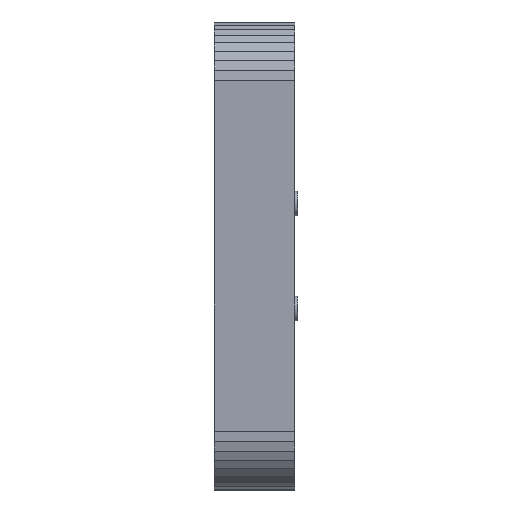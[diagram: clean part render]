
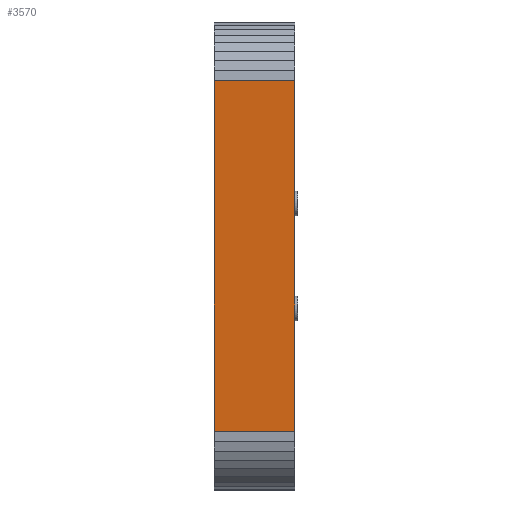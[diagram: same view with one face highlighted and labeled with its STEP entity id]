
A CAD part, top view. The second image highlights one B-rep face of the part: STEP entity #3570.
In plain terms, the highlighted planar face has unit normal (0, -0.079, 0.997).
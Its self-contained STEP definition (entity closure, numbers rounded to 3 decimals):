
#72 = PLANE('',#73);
#73 = AXIS2_PLACEMENT_3D('',#74,#75,#76);
#74 = CARTESIAN_POINT('',(-78.,158.178,-107.5));
#75 = DIRECTION('',(-1.,-0.,-0.));
#76 = DIRECTION('',(0.,0.,-1.));
#126 = PLANE('',#127);
#127 = AXIS2_PLACEMENT_3D('',#128,#129,#130);
#128 = CARTESIAN_POINT('',(-52.,158.178,-107.5));
#129 = DIRECTION('',(-1.,-0.,-0.));
#130 = DIRECTION('',(0.,0.,-1.));
#991 = VERTEX_POINT('',#992);
#992 = CARTESIAN_POINT('',(-52.,215.,-84.));
#1006 = PLANE('',#1007);
#1007 = AXIS2_PLACEMENT_3D('',#1008,#1009,#1010);
#1008 = CARTESIAN_POINT('',(-52.,218.299,-84.289));
#1009 = DIRECTION('',(-0.,-0.087,-0.996));
#1010 = DIRECTION('',(0.,0.996,-0.087));
#1018 = EDGE_CURVE('',#991,#1019,#1021,.T.);
#1019 = VERTEX_POINT('',#1020);
#1020 = CARTESIAN_POINT('',(-52.,101.356,-93.));
#1021 = SURFACE_CURVE('',#1022,(#1026,#1033),.PCURVE_S1.);
#1022 = LINE('',#1023,#1024);
#1023 = CARTESIAN_POINT('',(-52.,215.,-84.));
#1024 = VECTOR('',#1025,1.);
#1025 = DIRECTION('',(-0.,-0.997,-0.079));
#1026 = PCURVE('',#126,#1027);
#1027 = DEFINITIONAL_REPRESENTATION('',(#1028),#1032);
#1028 = LINE('',#1029,#1030);
#1029 = CARTESIAN_POINT('',(-23.5,-56.822));
#1030 = VECTOR('',#1031,1.);
#1031 = DIRECTION('',(0.079,0.997));
#1032 = ( GEOMETRIC_REPRESENTATION_CONTEXT(2) 
PARAMETRIC_REPRESENTATION_CONTEXT() REPRESENTATION_CONTEXT('2D SPACE',''
  ) );
#1033 = PCURVE('',#1034,#1039);
#1034 = PLANE('',#1035);
#1035 = AXIS2_PLACEMENT_3D('',#1036,#1037,#1038);
#1036 = CARTESIAN_POINT('',(-52.,215.,-84.));
#1037 = DIRECTION('',(-0.,0.079,-0.997));
#1038 = DIRECTION('',(0.,0.997,0.079));
#1039 = DEFINITIONAL_REPRESENTATION('',(#1040),#1044);
#1040 = LINE('',#1041,#1042);
#1041 = CARTESIAN_POINT('',(0.,-0.));
#1042 = VECTOR('',#1043,1.);
#1043 = DIRECTION('',(-1.,0.));
#1044 = ( GEOMETRIC_REPRESENTATION_CONTEXT(2) 
PARAMETRIC_REPRESENTATION_CONTEXT() REPRESENTATION_CONTEXT('2D SPACE',''
  ) );
#1062 = PLANE('',#1063);
#1063 = AXIS2_PLACEMENT_3D('',#1064,#1065,#1066);
#1064 = CARTESIAN_POINT('',(-52.,101.356,-93.));
#1065 = DIRECTION('',(-0.,0.087,-0.996));
#1066 = DIRECTION('',(0.,0.996,0.087));
#2911 = VERTEX_POINT('',#2912);
#2912 = CARTESIAN_POINT('',(-78.,215.,-84.));
#2933 = EDGE_CURVE('',#2911,#2934,#2936,.T.);
#2934 = VERTEX_POINT('',#2935);
#2935 = CARTESIAN_POINT('',(-78.,101.356,-93.));
#2936 = SURFACE_CURVE('',#2937,(#2941,#2948),.PCURVE_S1.);
#2937 = LINE('',#2938,#2939);
#2938 = CARTESIAN_POINT('',(-78.,215.,-84.));
#2939 = VECTOR('',#2940,1.);
#2940 = DIRECTION('',(-0.,-0.997,-0.079));
#2941 = PCURVE('',#72,#2942);
#2942 = DEFINITIONAL_REPRESENTATION('',(#2943),#2947);
#2943 = LINE('',#2944,#2945);
#2944 = CARTESIAN_POINT('',(-23.5,-56.822));
#2945 = VECTOR('',#2946,1.);
#2946 = DIRECTION('',(0.079,0.997));
#2947 = ( GEOMETRIC_REPRESENTATION_CONTEXT(2) 
PARAMETRIC_REPRESENTATION_CONTEXT() REPRESENTATION_CONTEXT('2D SPACE',''
  ) );
#2948 = PCURVE('',#1034,#2949);
#2949 = DEFINITIONAL_REPRESENTATION('',(#2950),#2954);
#2950 = LINE('',#2951,#2952);
#2951 = CARTESIAN_POINT('',(-0.,-26.));
#2952 = VECTOR('',#2953,1.);
#2953 = DIRECTION('',(-1.,0.));
#2954 = ( GEOMETRIC_REPRESENTATION_CONTEXT(2) 
PARAMETRIC_REPRESENTATION_CONTEXT() REPRESENTATION_CONTEXT('2D SPACE',''
  ) );
#3520 = EDGE_CURVE('',#1019,#2934,#3521,.T.);
#3521 = SURFACE_CURVE('',#3522,(#3526,#3533),.PCURVE_S1.);
#3522 = LINE('',#3523,#3524);
#3523 = CARTESIAN_POINT('',(-52.,101.356,-93.));
#3524 = VECTOR('',#3525,1.);
#3525 = DIRECTION('',(-1.,-0.,-0.));
#3526 = PCURVE('',#1062,#3527);
#3527 = DEFINITIONAL_REPRESENTATION('',(#3528),#3532);
#3528 = LINE('',#3529,#3530);
#3529 = CARTESIAN_POINT('',(0.,-0.));
#3530 = VECTOR('',#3531,1.);
#3531 = DIRECTION('',(-0.,-1.));
#3532 = ( GEOMETRIC_REPRESENTATION_CONTEXT(2) 
PARAMETRIC_REPRESENTATION_CONTEXT() REPRESENTATION_CONTEXT('2D SPACE',''
  ) );
#3533 = PCURVE('',#1034,#3534);
#3534 = DEFINITIONAL_REPRESENTATION('',(#3535),#3539);
#3535 = LINE('',#3536,#3537);
#3536 = CARTESIAN_POINT('',(-114.,0.));
#3537 = VECTOR('',#3538,1.);
#3538 = DIRECTION('',(-0.,-1.));
#3539 = ( GEOMETRIC_REPRESENTATION_CONTEXT(2) 
PARAMETRIC_REPRESENTATION_CONTEXT() REPRESENTATION_CONTEXT('2D SPACE',''
  ) );
#3570 = ADVANCED_FACE('',(#3571),#1034,.F.);
#3571 = FACE_BOUND('',#3572,.T.);
#3572 = EDGE_LOOP('',(#3573,#3594,#3595,#3596));
#3573 = ORIENTED_EDGE('',*,*,#3574,.T.);
#3574 = EDGE_CURVE('',#991,#2911,#3575,.T.);
#3575 = SURFACE_CURVE('',#3576,(#3580,#3587),.PCURVE_S1.);
#3576 = LINE('',#3577,#3578);
#3577 = CARTESIAN_POINT('',(-52.,215.,-84.));
#3578 = VECTOR('',#3579,1.);
#3579 = DIRECTION('',(-1.,-0.,-0.));
#3580 = PCURVE('',#1034,#3581);
#3581 = DEFINITIONAL_REPRESENTATION('',(#3582),#3586);
#3582 = LINE('',#3583,#3584);
#3583 = CARTESIAN_POINT('',(0.,-0.));
#3584 = VECTOR('',#3585,1.);
#3585 = DIRECTION('',(-0.,-1.));
#3586 = ( GEOMETRIC_REPRESENTATION_CONTEXT(2) 
PARAMETRIC_REPRESENTATION_CONTEXT() REPRESENTATION_CONTEXT('2D SPACE',''
  ) );
#3587 = PCURVE('',#1006,#3588);
#3588 = DEFINITIONAL_REPRESENTATION('',(#3589),#3593);
#3589 = LINE('',#3590,#3591);
#3590 = CARTESIAN_POINT('',(-3.312,0.));
#3591 = VECTOR('',#3592,1.);
#3592 = DIRECTION('',(-0.,-1.));
#3593 = ( GEOMETRIC_REPRESENTATION_CONTEXT(2) 
PARAMETRIC_REPRESENTATION_CONTEXT() REPRESENTATION_CONTEXT('2D SPACE',''
  ) );
#3594 = ORIENTED_EDGE('',*,*,#2933,.T.);
#3595 = ORIENTED_EDGE('',*,*,#3520,.F.);
#3596 = ORIENTED_EDGE('',*,*,#1018,.F.);
